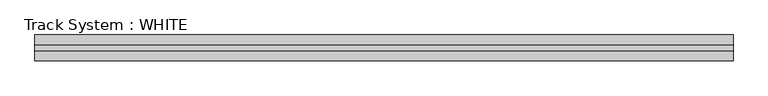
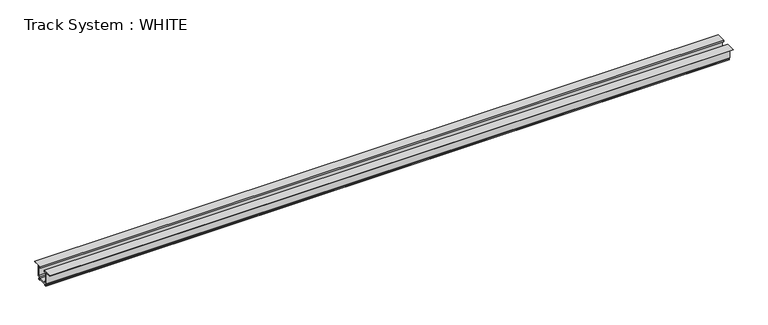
"""IFC4 building model written with IfcOpenShell, lengths in millimetres: proxy geometry, Track System : WHITE."""

from ifc_helpers import new_model, si_unit, frame, origin, place, context, project, spatial, polyline, outline, extrude, source, transform, mapped, element, save


def track_system_white_5602e649(model_context):
    return source(origin(), model_context, "Body", "SweptSolid", [
        extrude(outline(polyline([(14.0, 0.0), (8.0, 0.0), (8.0, -1.9845872), (7.0, -1.9845872), (7.0, 1.0), (28.0, 1.0), (28.0, 0.0), (15.7, 0.0), (15.7, -25.0), (10.927466, -25.0), (10.927466, -29.5), (13.4764266, -29.5), (13.4764266, -31.5879154), (12.4547334, -31.5879154), (12.4547334, -30.6), (10.927466, -30.6), (10.927466, -31.5879154), (9.7126737, -31.5879154), (9.0, -29.5), (-9.0, -29.5), (-9.7126737, -31.5879154), (-10.927466, -31.5879154), (-10.927466, -30.6), (-12.4547334, -30.6), (-12.4547334, -31.5879154), (-13.4764266, -31.5879154), (-13.4764266, -29.5), (-10.927466, -29.5), (-10.927466, -25.0), (-15.7, -25.0), (-15.7, 0.0), (-28.0, 0.0), (-28.0, 1.0), (-7.0, 1.0), (-7.0, -1.9845872), (-8.0, -1.9845872), (-8.0, 0.0), (-14.0, 0.0), (-14.0, -23.3), (-9.0, -23.3), (-9.0, -27.25625), (9.0, -27.25625), (9.0, -23.3), (14.0, -23.3), (14.0, 0.0)])), frame((-750.0, 0.0, 0.0), z_axis=(1.0, 0.0, 0.0), x_axis=(0.0, 1.0, 0.0)), (0.0, 0.0, 1.0), 1500.0),
    ])


if __name__ == "__main__":
    model = new_model("IFC4")
    model_context = context("Model", 3, world=origin())
    ifc_project = project(units=[si_unit("LENGTHUNIT", "METRE", prefix="MILLI")], contexts=[model_context])
    site = spatial("IfcSite", under=ifc_project)
    building = spatial("IfcBuilding", under=site)
    placement = place(None, origin())
    track_system_white_shape = track_system_white_5602e649(model_context)
    element("IfcBuildingElementProxy", 1, Name="Track System : WHITE", ObjectType="Track System : WHITE", at=placement, inside=building, context=model_context, shape_type="MappedRepresentation", body=[
        mapped(track_system_white_shape, transform((0.0, 0.0, 0.0), x_axis=(1.0, 0.0, 0.0), y_axis=(0.0, 1.0, 0.0), z_axis=(0.0, 0.0, 1.0))),
    ])
    save(model, "model.ifc")
